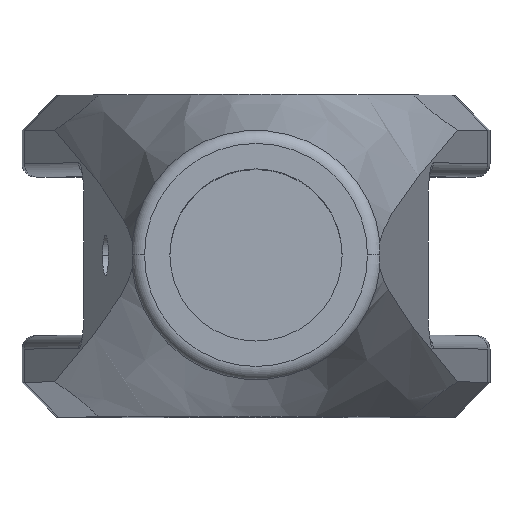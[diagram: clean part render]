
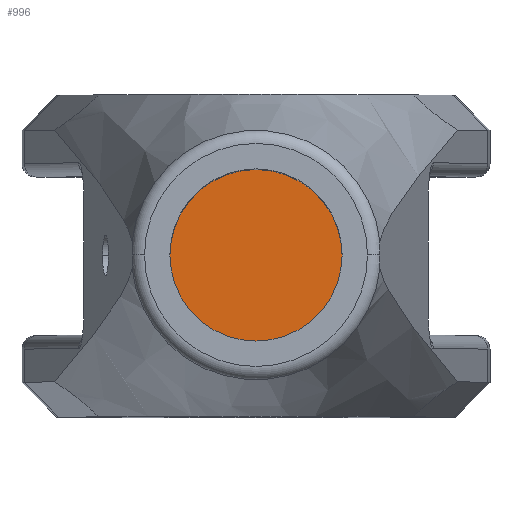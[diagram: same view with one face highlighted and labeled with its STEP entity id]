
A CAD part, top view. The second image highlights one B-rep face of the part: STEP entity #996.
In plain terms, the highlighted planar face has unit normal (0, 0, 1).
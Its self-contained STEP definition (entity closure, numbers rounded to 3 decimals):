
#259 = ORIENTED_EDGE ( 'NONE', *, *, #927, .T. ) ;
#291 = CARTESIAN_POINT ( 'NONE',  ( 45.5, 0., -128. ) ) ;
#403 = CARTESIAN_POINT ( 'NONE',  ( 45.5, 0., -128. ) ) ;
#416 = PLANE ( 'NONE',  #1411 ) ;
#462 = VERTEX_POINT ( 'NONE', #1414 ) ;
#577 = DIRECTION ( 'NONE',  ( 1., 0., 0. ) ) ;
#583 = DIRECTION ( 'NONE',  ( 0., 0., 1. ) ) ;
#627 = CIRCLE ( 'NONE', #1035, 32. ) ;
#630 = DIRECTION ( 'NONE',  ( 0., 0., 1. ) ) ;
#713 = AXIS2_PLACEMENT_3D ( 'NONE', #291, #630, #1337 ) ;
#752 = CARTESIAN_POINT ( 'NONE',  ( 45.5, 0., -128. ) ) ;
#917 = VERTEX_POINT ( 'NONE', #1826 ) ;
#927 = EDGE_CURVE ( 'NONE', #462, #917, #1838, .T. ) ;
#996 = ADVANCED_FACE ( 'NONE', ( #1395 ), #416, .T. ) ;
#1022 = DIRECTION ( 'NONE',  ( 1., 0., 0. ) ) ;
#1035 = AXIS2_PLACEMENT_3D ( 'NONE', #403, #1481, #577 ) ;
#1337 = DIRECTION ( 'NONE',  ( 1., 0., 0. ) ) ;
#1395 = FACE_OUTER_BOUND ( 'NONE', #1410, .T. ) ;
#1410 = EDGE_LOOP ( 'NONE', ( #1487, #259 ) ) ;
#1411 = AXIS2_PLACEMENT_3D ( 'NONE', #752, #583, #1022 ) ;
#1414 = CARTESIAN_POINT ( 'NONE',  ( 13.5, 0., -128. ) ) ;
#1481 = DIRECTION ( 'NONE',  ( 0., 0., 1. ) ) ;
#1487 = ORIENTED_EDGE ( 'NONE', *, *, #1546, .T. ) ;
#1546 = EDGE_CURVE ( 'NONE', #917, #462, #627, .T. ) ;
#1826 = CARTESIAN_POINT ( 'NONE',  ( 77.5, 0., -128. ) ) ;
#1838 = CIRCLE ( 'NONE', #713, 32. ) ;
